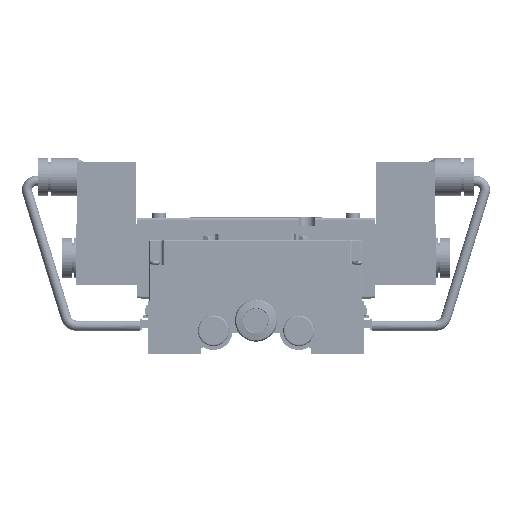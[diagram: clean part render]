
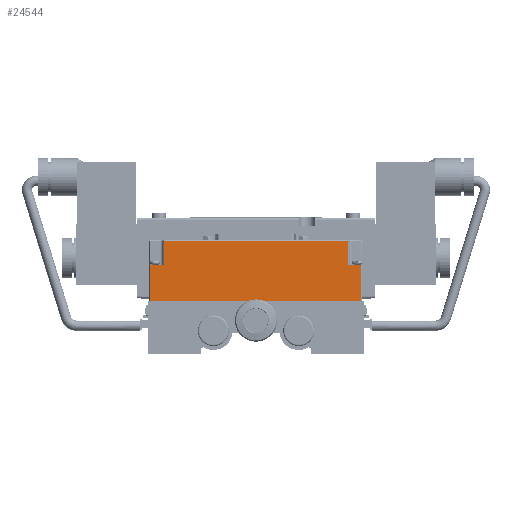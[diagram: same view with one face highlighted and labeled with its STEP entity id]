
A CAD part, front view. The second image highlights one B-rep face of the part: STEP entity #24544.
In plain terms, the highlighted planar face has unit normal (0, -1, 0).
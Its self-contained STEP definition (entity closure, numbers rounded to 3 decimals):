
#2915 = DIRECTION ( 'NONE',  ( -1., 0., 0. ) ) ;
#3040 = LINE ( 'NONE', #68107, #45246 ) ;
#3218 = VERTEX_POINT ( 'NONE', #71686 ) ;
#4042 = PLANE ( 'NONE',  #41856 ) ;
#4294 = DIRECTION ( 'NONE',  ( 0., 0., -1. ) ) ;
#4744 = ORIENTED_EDGE ( 'NONE', *, *, #34351, .T. ) ;
#5372 = LINE ( 'NONE', #36313, #54302 ) ;
#9329 = EDGE_CURVE ( 'NONE', #67047, #41378, #5372, .T. ) ;
#10867 = CARTESIAN_POINT ( 'NONE',  ( -1.81, 15.005, 26. ) ) ;
#10994 = VERTEX_POINT ( 'NONE', #56213 ) ;
#13584 = EDGE_CURVE ( 'NONE', #75098, #22892, #27827, .T. ) ;
#14828 = ORIENTED_EDGE ( 'NONE', *, *, #41223, .F. ) ;
#14928 = VERTEX_POINT ( 'NONE', #10867 ) ;
#15450 = CARTESIAN_POINT ( 'NONE',  ( -1.31, 15.005, 56. ) ) ;
#16733 = ORIENTED_EDGE ( 'NONE', *, *, #76109, .T. ) ;
#16901 = CARTESIAN_POINT ( 'NONE',  ( -1.81, 15.005, 56. ) ) ;
#22555 = CARTESIAN_POINT ( 'NONE',  ( -105.4, 15.005, 44. ) ) ;
#22892 = VERTEX_POINT ( 'NONE', #60887 ) ;
#24544 = ADVANCED_FACE ( 'NONE', ( #51858 ), #4042, .T. ) ;
#25406 = ORIENTED_EDGE ( 'NONE', *, *, #58804, .F. ) ;
#27234 = ORIENTED_EDGE ( 'NONE', *, *, #13584, .T. ) ;
#27827 = LINE ( 'NONE', #58001, #72896 ) ;
#28241 = CARTESIAN_POINT ( 'NONE',  ( -1.81, 15.005, 44. ) ) ;
#29122 = CARTESIAN_POINT ( 'NONE',  ( -8.21, 15.005, 56. ) ) ;
#29488 = LINE ( 'NONE', #77276, #58789 ) ;
#30471 = CARTESIAN_POINT ( 'NONE',  ( -8.21, 15.005, 44. ) ) ;
#31095 = CARTESIAN_POINT ( 'NONE',  ( -98.59, 15.005, 55.5 ) ) ;
#31958 = CARTESIAN_POINT ( 'NONE',  ( -99.09, 15.005, 55.5 ) ) ;
#33841 = LINE ( 'NONE', #29122, #68623 ) ;
#34126 = LINE ( 'NONE', #16901, #35763 ) ;
#34351 = EDGE_CURVE ( 'NONE', #14928, #67047, #34126, .T. ) ;
#35763 = VECTOR ( 'NONE', #57277, 1000. ) ;
#36313 = CARTESIAN_POINT ( 'NONE',  ( 0.3, 15.005, 44. ) ) ;
#38046 = CARTESIAN_POINT ( 'NONE',  ( -107.1, 15.005, 44. ) ) ;
#39695 = DIRECTION ( 'NONE',  ( 0., -1., 0. ) ) ;
#40318 = EDGE_CURVE ( 'NONE', #41378, #10994, #33841, .T. ) ;
#41223 = EDGE_CURVE ( 'NONE', #14928, #22892, #29488, .T. ) ;
#41284 = ORIENTED_EDGE ( 'NONE', *, *, #40318, .T. ) ;
#41378 = VERTEX_POINT ( 'NONE', #30471 ) ;
#41856 = AXIS2_PLACEMENT_3D ( 'NONE', #15450, #39695, #2915 ) ;
#45246 = VECTOR ( 'NONE', #74728, 1000. ) ;
#47516 = DIRECTION ( 'NONE',  ( -1., 0., 0. ) ) ;
#51858 = FACE_OUTER_BOUND ( 'NONE', #74376, .T. ) ;
#52353 = VECTOR ( 'NONE', #54291, 1000. ) ;
#52996 = ORIENTED_EDGE ( 'NONE', *, *, #56678, .T. ) ;
#54291 = DIRECTION ( 'NONE',  ( -1., 0., 0. ) ) ;
#54302 = VECTOR ( 'NONE', #66481, 1000. ) ;
#54432 = VERTEX_POINT ( 'NONE', #31095 ) ;
#56213 = CARTESIAN_POINT ( 'NONE',  ( -8.21, 15.005, 55.5 ) ) ;
#56678 = EDGE_CURVE ( 'NONE', #10994, #54432, #60170, .T. ) ;
#57277 = DIRECTION ( 'NONE',  ( 0., 0., 1. ) ) ;
#57516 = VECTOR ( 'NONE', #62342, 1000. ) ;
#57762 = DIRECTION ( 'NONE',  ( 0., 0., 1. ) ) ;
#58001 = CARTESIAN_POINT ( 'NONE',  ( -105.4, 15.005, 56. ) ) ;
#58789 = VECTOR ( 'NONE', #47516, 1000. ) ;
#58804 = EDGE_CURVE ( 'NONE', #75098, #3218, #73697, .T. ) ;
#59405 = ORIENTED_EDGE ( 'NONE', *, *, #9329, .T. ) ;
#60170 = LINE ( 'NONE', #31958, #52353 ) ;
#60887 = CARTESIAN_POINT ( 'NONE',  ( -105.4, 15.005, 26. ) ) ;
#62342 = DIRECTION ( 'NONE',  ( 1., 0., 0. ) ) ;
#66481 = DIRECTION ( 'NONE',  ( -1., 0., 0. ) ) ;
#67047 = VERTEX_POINT ( 'NONE', #28241 ) ;
#68107 = CARTESIAN_POINT ( 'NONE',  ( -98.59, 15.005, 44. ) ) ;
#68623 = VECTOR ( 'NONE', #57762, 1000. ) ;
#71686 = CARTESIAN_POINT ( 'NONE',  ( -98.59, 15.005, 44. ) ) ;
#72896 = VECTOR ( 'NONE', #4294, 1000. ) ;
#73697 = LINE ( 'NONE', #38046, #57516 ) ;
#74376 = EDGE_LOOP ( 'NONE', ( #14828, #4744, #59405, #41284, #52996, #16733, #25406, #27234 ) ) ;
#74728 = DIRECTION ( 'NONE',  ( 0., 0., -1. ) ) ;
#75098 = VERTEX_POINT ( 'NONE', #22555 ) ;
#76109 = EDGE_CURVE ( 'NONE', #54432, #3218, #3040, .T. ) ;
#77276 = CARTESIAN_POINT ( 'NONE',  ( -1.31, 15.005, 26. ) ) ;
